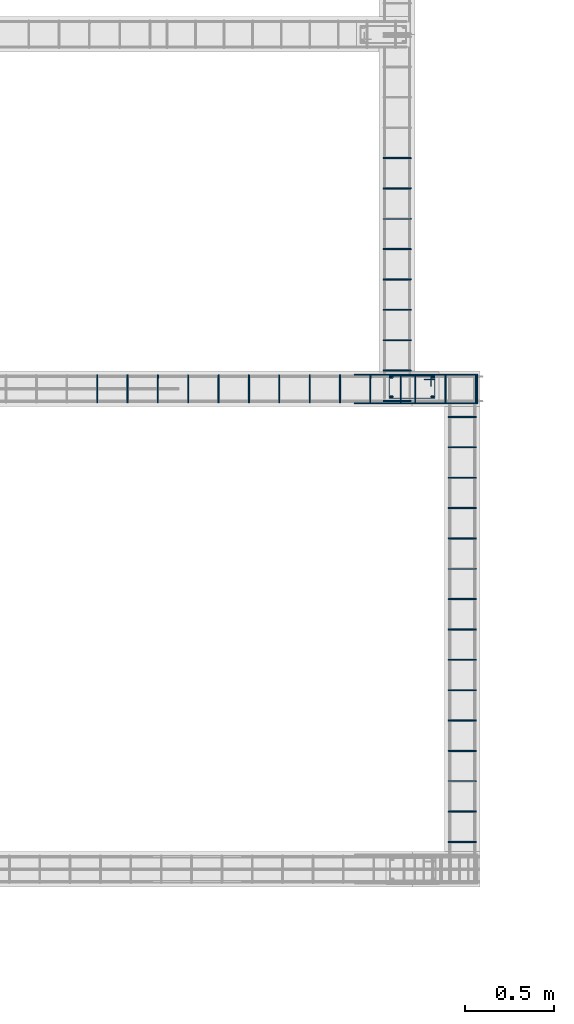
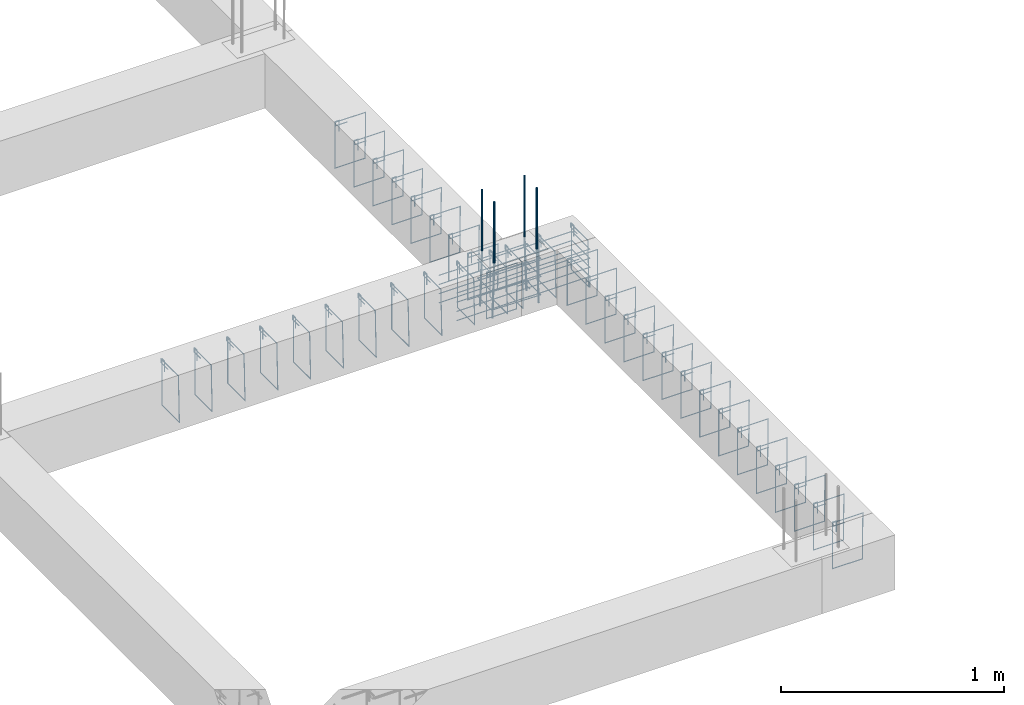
# One storey, part 120 of 150: 49 reinforcing bars.
"""IFC4 building model written with IfcOpenShell, lengths in centimetres."""

from ifc_helpers import new_model, entity, si_unit, derived_unit, frame, origin_with_axes, place, context, project, spatial, source, transform, mapped, element, save


model = new_model("IFC4")

# Units and contexts
model_context = context("Model", 3, precision=1e-05, world=origin_with_axes(), identifier="Body")
ifc_project = project(units=[si_unit("LENGTHUNIT", "METRE", prefix="CENTI"), si_unit("VOLUMEUNIT", "CUBIC_METRE"), si_unit("AREAUNIT", "SQUARE_METRE"), si_unit("POWERUNIT", "WATT"), si_unit("LUMINOUSFLUXUNIT", "LUMEN"), si_unit("ELECTRICCURRENTUNIT", "AMPERE"), si_unit("PRESSUREUNIT", "PASCAL", prefix="KILO"), si_unit("MASSUNIT", "GRAM", prefix="KILO"), si_unit("PLANEANGLEUNIT", "RADIAN"), derived_unit("VOLUMETRICFLOWRATEUNIT", [(si_unit("LENGTHUNIT", "METRE"), 3), (si_unit("TIMEUNIT", "SECOND"), -1)])], contexts=[model_context])

# Site, building, storey
site_placement = place(None, frame((-4000.0, 0.0, 0.0), z_axis=(0.0, 0.0, 1.0), x_axis=(1.0, 0.0, 0.0)))
site = spatial("IfcSite", under=ifc_project, at=site_placement, Name="PADRÃO")
building_placement = place(site_placement, frame((0.0, 0.0, -14.0)))
building = spatial("IfcBuilding", under=site, at=building_placement, Name="CRECHE PRÉ-ESCOLA TIPO 2")
placement = place(building_placement, origin_with_axes())
storey_placement = place(placement, frame((0.0, 0.0, 30.0), z_axis=(0.0, 0.0, 1.0), x_axis=(1.0, 0.0, 0.0)))
storey = spatial("IfcBuildingStorey", under=building, at=storey_placement, Name="VIGA BALDRAME", CompositionType="ELEMENT", Elevation=16.0)

# Reinforcing bars
shared_shape_1 = source(origin_with_axes(), model_context, "Body", "AdvancedSweptSolid", [
    entity("IfcSweptDiskSolid", entity("IfcCompositeCurve", [entity("IfcCompositeCurveSegment", "CONTINUOUS", True, entity("IfcPolyline", [entity("IfcCartesianPoint", [4.25, 21.75, 0.0]), entity("IfcCartesianPoint", [4.25, 27.75, 0.0])])), entity("IfcCompositeCurveSegment", "CONTINUOUS", True, entity("IfcPolyline", [entity("IfcCartesianPoint", [4.25, 27.75, 0.0]), entity("IfcCartesianPoint", [2.25, 27.75, 0.0])])), entity("IfcCompositeCurveSegment", "CONTINUOUS", True, entity("IfcPolyline", [entity("IfcCartesianPoint", [2.25, 27.75, 0.0]), entity("IfcCartesianPoint", [2.25, 2.25, 0.0])])), entity("IfcCompositeCurveSegment", "CONTINUOUS", True, entity("IfcPolyline", [entity("IfcCartesianPoint", [2.25, 2.25, 0.0]), entity("IfcCartesianPoint", [14.75, 2.25, 0.0])])), entity("IfcCompositeCurveSegment", "CONTINUOUS", True, entity("IfcPolyline", [entity("IfcCartesianPoint", [14.75, 2.25, 0.0]), entity("IfcCartesianPoint", [14.75, 27.75, -0.5])])), entity("IfcCompositeCurveSegment", "CONTINUOUS", True, entity("IfcPolyline", [entity("IfcCartesianPoint", [14.75, 27.75, -0.5]), entity("IfcCartesianPoint", [2.25, 27.75, -0.5])])), entity("IfcCompositeCurveSegment", "CONTINUOUS", True, entity("IfcPolyline", [entity("IfcCartesianPoint", [2.25, 27.75, -0.5]), entity("IfcCartesianPoint", [2.25, 25.75, -0.5])])), entity("IfcCompositeCurveSegment", "CONTINUOUS", True, entity("IfcPolyline", [entity("IfcCartesianPoint", [2.25, 25.75, -0.5]), entity("IfcCartesianPoint", [8.25, 25.75, -0.5])]))], False), 0.25),
])
for number, where, z_axis, x_axis, name in (
    (1, (1377.84, 3478.52, -5.0), (0.0, 0.0, 1.0), (0.0, -1.0, 0.0), "P41 - Estribo"),
    (2, (1377.84, 3478.52, -15.0), (0.0, 0.0, 1.0), (0.0, -1.0, 0.0), "P41 - Estribo"),
    (3, (1377.84, 3478.52, -25.0), (0.0, 0.0, 1.0), (0.0, -1.0, 0.0), "P41 - Estribo"),
):
    element("IfcReinforcingBar", number, at=place(storey_placement, frame(where, z_axis=z_axis, x_axis=x_axis)), inside=storey, Name=name, BarLength=0.0, CrossSectionArea=1.9634954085e-05, NominalDiameter=0.5, PredefinedType="MAIN", context=model_context, shape_type="MappedRepresentation", body=[
        mapped(shared_shape_1, transform((0.0, 0.0, 0.0), scale=1.0)),
    ])
shared_shape_2 = source(origin_with_axes(), model_context, "Body", "AdvancedSweptSolid", [
    entity("IfcSweptDiskSolid", entity("IfcCompositeCurve", [entity("IfcCompositeCurveSegment", "CONTINUOUS", True, entity("IfcPolyline", [entity("IfcCartesianPoint", [2.0, -6.0, 0.0]), entity("IfcCartesianPoint", [2.0, 0.0, 0.0])])), entity("IfcCompositeCurveSegment", "CONTINUOUS", True, entity("IfcPolyline", [entity("IfcCartesianPoint", [2.0, 0.0, 0.0]), entity("IfcCartesianPoint", [0.0, 0.0, 0.0])])), entity("IfcCompositeCurveSegment", "CONTINUOUS", True, entity("IfcPolyline", [entity("IfcCartesianPoint", [0.0, 0.0, 0.0]), entity("IfcCartesianPoint", [0.0, -25.5, 0.0])])), entity("IfcCompositeCurveSegment", "CONTINUOUS", True, entity("IfcPolyline", [entity("IfcCartesianPoint", [0.0, -25.5, 0.0]), entity("IfcCartesianPoint", [15.5, -25.5, 0.0])])), entity("IfcCompositeCurveSegment", "CONTINUOUS", True, entity("IfcPolyline", [entity("IfcCartesianPoint", [15.5, -25.5, 0.0]), entity("IfcCartesianPoint", [15.5, 0.0, 0.5])])), entity("IfcCompositeCurveSegment", "CONTINUOUS", True, entity("IfcPolyline", [entity("IfcCartesianPoint", [15.5, 0.0, 0.5]), entity("IfcCartesianPoint", [0.0, 0.0, 0.5])])), entity("IfcCompositeCurveSegment", "CONTINUOUS", True, entity("IfcPolyline", [entity("IfcCartesianPoint", [0.0, 0.0, 0.5]), entity("IfcCartesianPoint", [0.0, -2.0, 0.5])])), entity("IfcCompositeCurveSegment", "CONTINUOUS", True, entity("IfcPolyline", [entity("IfcCartesianPoint", [0.0, -2.0, 0.5]), entity("IfcCartesianPoint", [6.0, -2.0, 0.5])]))], False), 0.25),
])
for number, where, z_axis, x_axis, name in (
    (4, (1376.74, 3462.51, -2.25), (0.0, -1.0, 0.0), (1.0, 0.0, 0.0), "V188 - Estribo"),
    (5, (1376.74, 3479.51, -2.25), (0.0, -1.0, 0.0), (1.0, 0.0, 0.0), "V188 - Estribo"),
    (6, (1376.74, 3496.51, -2.25), (0.0, -1.0, 0.0), (1.0, 0.0, 0.0), "V188 - Estribo"),
    (7, (1376.74, 3530.51, -2.25), (0.0, -1.0, 0.0), (1.0, 0.0, 0.0), "V188 - Estribo"),
    (8, (1376.74, 3547.51, -2.25), (0.0, -1.0, 0.0), (1.0, 0.0, 0.0), "V188 - Estribo"),
    (9, (1376.74, 3513.51, -2.25), (0.0, -1.0, 0.0), (1.0, 0.0, 0.0), "V188 - Estribo"),
    (10, (1376.74, 3564.51, -2.25), (0.0, -1.0, 0.0), (1.0, 0.0, 0.0), "V188 - Estribo"),
    (11, (1376.74, 3581.51, -2.25), (0.0, -1.0, 0.0), (1.0, 0.0, 0.0), "V188 - Estribo"),
    (12, (1376.74, 3598.51, -2.25), (0.0, -1.0, 0.0), (1.0, 0.0, 0.0), "V188 - Estribo"),
):
    element("IfcReinforcingBar", number, at=place(storey_placement, frame(where, z_axis=z_axis, x_axis=x_axis)), inside=storey, Name=name, BarLength=0.0, CrossSectionArea=1.9634954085e-05, NominalDiameter=0.5, PredefinedType="MAIN", context=model_context, shape_type="MappedRepresentation", body=[
        mapped(shared_shape_2, transform((0.0, 0.0, 0.0), scale=1.0)),
    ])
shared_shape_3 = source(origin_with_axes(), model_context, "Body", "AdvancedSweptSolid", [
    entity("IfcSweptDiskSolid", entity("IfcCompositeCurve", [entity("IfcCompositeCurveSegment", "CONTINUOUS", True, entity("IfcPolyline", [entity("IfcCartesianPoint", [2.0, -6.0, 0.0]), entity("IfcCartesianPoint", [2.0, 0.0, 0.0])])), entity("IfcCompositeCurveSegment", "CONTINUOUS", True, entity("IfcPolyline", [entity("IfcCartesianPoint", [2.0, 0.0, 0.0]), entity("IfcCartesianPoint", [0.0, 0.0, 0.0])])), entity("IfcCompositeCurveSegment", "CONTINUOUS", True, entity("IfcPolyline", [entity("IfcCartesianPoint", [0.0, 0.0, 0.0]), entity("IfcCartesianPoint", [0.0, -25.5, 0.0])])), entity("IfcCompositeCurveSegment", "CONTINUOUS", True, entity("IfcPolyline", [entity("IfcCartesianPoint", [0.0, -25.5, 0.0]), entity("IfcCartesianPoint", [15.5, -25.5, 0.0])])), entity("IfcCompositeCurveSegment", "CONTINUOUS", True, entity("IfcPolyline", [entity("IfcCartesianPoint", [15.5, -25.5, 0.0]), entity("IfcCartesianPoint", [15.5, 0.0, 0.5])])), entity("IfcCompositeCurveSegment", "CONTINUOUS", True, entity("IfcPolyline", [entity("IfcCartesianPoint", [15.5, 0.0, 0.5]), entity("IfcCartesianPoint", [0.0, 0.0, 0.5])])), entity("IfcCompositeCurveSegment", "CONTINUOUS", True, entity("IfcPolyline", [entity("IfcCartesianPoint", [0.0, 0.0, 0.5]), entity("IfcCartesianPoint", [0.0, -2.0, 0.5])])), entity("IfcCompositeCurveSegment", "CONTINUOUS", True, entity("IfcPolyline", [entity("IfcCartesianPoint", [0.0, -2.0, 0.5]), entity("IfcCartesianPoint", [6.0, -2.0, 0.5])]))], False), 0.25),
])
for number, where, z_axis, x_axis, name in (
    (13, (1413.28, 3232.51, -2.25), (0.0, -1.0, 0.0), (1.0, 0.0, 0.0), "V187 - Estribo"),
    (14, (1413.28, 3215.51, -2.25), (0.0, -1.0, 0.0), (1.0, 0.0, 0.0), "V187 - Estribo"),
    (15, (1413.28, 3402.51, -2.25), (0.0, -1.0, 0.0), (1.0, 0.0, 0.0), "V187 - Estribo"),
    (16, (1413.28, 3419.51, -2.25), (0.0, -1.0, 0.0), (1.0, 0.0, 0.0), "V187 - Estribo"),
    (17, (1413.28, 3436.51, -2.25), (0.0, -1.0, 0.0), (1.0, 0.0, 0.0), "V187 - Estribo"),
    (18, (1413.28, 3453.51, -2.25), (0.0, -1.0, 0.0), (1.0, 0.0, 0.0), "V187 - Estribo"),
    (19, (1413.28, 3300.51, -2.25), (0.0, -1.0, 0.0), (1.0, 0.0, 0.0), "V187 - Estribo"),
    (20, (1413.28, 3283.51, -2.25), (0.0, -1.0, 0.0), (1.0, 0.0, 0.0), "V187 - Estribo"),
    (21, (1413.28, 3266.51, -2.25), (0.0, -1.0, 0.0), (1.0, 0.0, 0.0), "V187 - Estribo"),
    (22, (1413.28, 3249.51, -2.25), (0.0, -1.0, 0.0), (1.0, 0.0, 0.0), "V187 - Estribo"),
    (23, (1413.28, 3317.51, -2.25), (0.0, -1.0, 0.0), (1.0, 0.0, 0.0), "V187 - Estribo"),
    (24, (1413.28, 3334.51, -2.25), (0.0, -1.0, 0.0), (1.0, 0.0, 0.0), "V187 - Estribo"),
    (25, (1413.28, 3351.51, -2.25), (0.0, -1.0, 0.0), (1.0, 0.0, 0.0), "V187 - Estribo"),
    (26, (1413.28, 3368.51, -2.25), (0.0, -1.0, 0.0), (1.0, 0.0, 0.0), "V187 - Estribo"),
    (27, (1413.28, 3385.51, -2.25), (0.0, -1.0, 0.0), (1.0, 0.0, 0.0), "V187 - Estribo"),
):
    element("IfcReinforcingBar", number, at=place(storey_placement, frame(where, z_axis=z_axis, x_axis=x_axis)), inside=storey, Name=name, BarLength=0.0, CrossSectionArea=1.9634954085e-05, NominalDiameter=0.5, PredefinedType="MAIN", context=model_context, shape_type="MappedRepresentation", body=[
        mapped(shared_shape_3, transform((0.0, 0.0, 0.0), scale=1.0)),
    ])
shared_shape_4 = source(origin_with_axes(), model_context, "Body", "AdvancedSweptSolid", [
    entity("IfcSweptDiskSolid", entity("IfcCompositeCurve", [entity("IfcCompositeCurveSegment", "CONTINUOUS", True, entity("IfcPolyline", [entity("IfcCartesianPoint", [2.0, -6.0, 0.0]), entity("IfcCartesianPoint", [2.0, 0.0, 0.0])])), entity("IfcCompositeCurveSegment", "CONTINUOUS", True, entity("IfcPolyline", [entity("IfcCartesianPoint", [2.0, 0.0, 0.0]), entity("IfcCartesianPoint", [0.0, 0.0, 0.0])])), entity("IfcCompositeCurveSegment", "CONTINUOUS", True, entity("IfcPolyline", [entity("IfcCartesianPoint", [0.0, 0.0, 0.0]), entity("IfcCartesianPoint", [0.0, -25.5, 0.0])])), entity("IfcCompositeCurveSegment", "CONTINUOUS", True, entity("IfcPolyline", [entity("IfcCartesianPoint", [0.0, -25.5, 0.0]), entity("IfcCartesianPoint", [15.5, -25.5, 0.0])])), entity("IfcCompositeCurveSegment", "CONTINUOUS", True, entity("IfcPolyline", [entity("IfcCartesianPoint", [15.5, -25.5, 0.0]), entity("IfcCartesianPoint", [15.5, 0.0, 0.5])])), entity("IfcCompositeCurveSegment", "CONTINUOUS", True, entity("IfcPolyline", [entity("IfcCartesianPoint", [15.5, 0.0, 0.5]), entity("IfcCartesianPoint", [0.0, 0.0, 0.5])])), entity("IfcCompositeCurveSegment", "CONTINUOUS", True, entity("IfcPolyline", [entity("IfcCartesianPoint", [0.0, 0.0, 0.5]), entity("IfcCartesianPoint", [0.0, -2.0, 0.5])])), entity("IfcCompositeCurveSegment", "CONTINUOUS", True, entity("IfcPolyline", [entity("IfcCartesianPoint", [0.0, -2.0, 0.5]), entity("IfcCartesianPoint", [6.0, -2.0, 0.5])]))], False), 0.25),
])
for number, where, z_axis, x_axis, name in (
    (28, (1386.78, 3476.75, -2.25), (-1.0, 0.0, 0.0), (0.0, -1.0, 0.0), "V110 - Estribo"),
    (29, (1369.78, 3476.75, -2.25), (-1.0, 0.0, 0.0), (0.0, -1.0, 0.0), "V110 - Estribo"),
    (30, (1352.78, 3476.75, -2.25), (-1.0, 0.0, 0.0), (0.0, -1.0, 0.0), "V110 - Estribo"),
    (31, (1335.78, 3476.75, -2.25), (-1.0, 0.0, 0.0), (0.0, -1.0, 0.0), "V110 - Estribo"),
    (32, (1318.78, 3476.75, -2.25), (-1.0, 0.0, 0.0), (0.0, -1.0, 0.0), "V110 - Estribo"),
    (33, (1301.78, 3476.75, -2.25), (-1.0, 0.0, 0.0), (0.0, -1.0, 0.0), "V110 - Estribo"),
    (34, (1284.78, 3476.75, -2.25), (-1.0, 0.0, 0.0), (0.0, -1.0, 0.0), "V110 - Estribo"),
    (35, (1267.78, 3476.75, -2.25), (-1.0, 0.0, 0.0), (0.0, -1.0, 0.0), "V110 - Estribo"),
    (36, (1250.78, 3476.75, -2.25), (-1.0, 0.0, 0.0), (0.0, -1.0, 0.0), "V110 - Estribo"),
    (37, (1233.78, 3476.75, -2.25), (-1.0, 0.0, 0.0), (0.0, -1.0, 0.0), "V110 - Estribo"),
    (38, (1216.78, 3476.75, -2.25), (-1.0, 0.0, 0.0), (0.0, -1.0, 0.0), "V110 - Estribo"),
):
    element("IfcReinforcingBar", number, at=place(storey_placement, frame(where, z_axis=z_axis, x_axis=x_axis)), inside=storey, Name=name, BarLength=0.0, CrossSectionArea=1.9634954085e-05, NominalDiameter=0.5, PredefinedType="MAIN", context=model_context, shape_type="MappedRepresentation", body=[
        mapped(shared_shape_4, transform((0.0, 0.0, 0.0), scale=1.0)),
    ])
shared_shape_5 = source(origin_with_axes(), model_context, "Body", "AdvancedSweptSolid", [
    entity("IfcSweptDiskSolid", entity("IfcCompositeCurve", [entity("IfcCompositeCurveSegment", "CONTINUOUS", True, entity("IfcPolyline", [entity("IfcCartesianPoint", [2.0, -6.0, 0.0]), entity("IfcCartesianPoint", [2.0, 0.0, 0.0])])), entity("IfcCompositeCurveSegment", "CONTINUOUS", True, entity("IfcPolyline", [entity("IfcCartesianPoint", [2.0, 0.0, 0.0]), entity("IfcCartesianPoint", [0.0, 0.0, 0.0])])), entity("IfcCompositeCurveSegment", "CONTINUOUS", True, entity("IfcPolyline", [entity("IfcCartesianPoint", [0.0, 0.0, 0.0]), entity("IfcCartesianPoint", [0.0, -25.5, 0.0])])), entity("IfcCompositeCurveSegment", "CONTINUOUS", True, entity("IfcPolyline", [entity("IfcCartesianPoint", [0.0, -25.5, 0.0]), entity("IfcCartesianPoint", [15.5, -25.5, 0.0])])), entity("IfcCompositeCurveSegment", "CONTINUOUS", True, entity("IfcPolyline", [entity("IfcCartesianPoint", [15.5, -25.5, 0.0]), entity("IfcCartesianPoint", [15.5, 0.0, 0.5])])), entity("IfcCompositeCurveSegment", "CONTINUOUS", True, entity("IfcPolyline", [entity("IfcCartesianPoint", [15.5, 0.0, 0.5]), entity("IfcCartesianPoint", [0.0, 0.0, 0.5])])), entity("IfcCompositeCurveSegment", "CONTINUOUS", True, entity("IfcPolyline", [entity("IfcCartesianPoint", [0.0, 0.0, 0.5]), entity("IfcCartesianPoint", [0.0, -2.0, 0.5])])), entity("IfcCompositeCurveSegment", "CONTINUOUS", True, entity("IfcPolyline", [entity("IfcCartesianPoint", [0.0, -2.0, 0.5]), entity("IfcCartesianPoint", [6.0, -2.0, 0.5])]))], False), 0.25),
])
for number, where, z_axis, x_axis, name in (
    (39, (1428.935, 3476.75, -2.25), (-1.0, 0.0, 0.0), (0.0, -1.0, 0.0), "V110 - Estribo"),
    (40, (1411.935, 3476.75, -2.25), (-1.0, 0.0, 0.0), (0.0, -1.0, 0.0), "V110 - Estribo"),
    (41, (1394.935, 3476.75, -2.25), (-1.0, 0.0, 0.0), (0.0, -1.0, 0.0), "V110 - Estribo"),
):
    element("IfcReinforcingBar", number, at=place(storey_placement, frame(where, z_axis=z_axis, x_axis=x_axis)), inside=storey, Name=name, BarLength=0.0, CrossSectionArea=1.9634954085e-05, NominalDiameter=0.5, PredefinedType="MAIN", context=model_context, shape_type="MappedRepresentation", body=[
        mapped(shared_shape_5, transform((0.0, 0.0, 0.0), scale=1.0)),
    ])
shared_shape_6 = source(origin_with_axes(), model_context, "Body", "AdvancedSweptSolid", [
    entity("IfcSweptDiskSolid", entity("IfcCompositeCurve", [entity("IfcCompositeCurveSegment", "CONTINUOUS", True, entity("IfcPolyline", [entity("IfcCartesianPoint", [0.0, 0.0, 0.0]), entity("IfcCartesianPoint", [68.8913828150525, 0.0, 0.0])])), entity("IfcCompositeCurveSegment", "CONTINUOUS", True, entity("IfcPolyline", [entity("IfcCartesianPoint", [68.8913828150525, 0.0, 0.0]), entity("IfcCartesianPoint", [68.8913828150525, 16.0, 0.0])])), entity("IfcCompositeCurveSegment", "CONTINUOUS", True, entity("IfcPolyline", [entity("IfcCartesianPoint", [68.8913828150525, 16.0, 0.0]), entity("IfcCartesianPoint", [0.0, 16.0, 0.0])]))], False), 0.25),
])
for number, where, z_axis, x_axis, name in (
    (42, (1360.38861718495, 3461.0, -22.1), (0.0, 0.0, 1.0), (1.0, 0.0, 0.0), "V110 - Grampo"),
    (43, (1360.38861718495, 3461.0, -17.1), (0.0, 0.0, 1.0), (1.0, 0.0, 0.0), "V110 - Grampo"),
    (44, (1360.38861718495, 3461.0, -12.1), (0.0, 0.0, 1.0), (1.0, 0.0, 0.0), "V110 - Grampo"),
    (45, (1360.38861718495, 3461.0, -7.1), (0.0, 0.0, 1.0), (1.0, 0.0, 0.0), "V110 - Grampo"),
):
    element("IfcReinforcingBar", number, at=place(storey_placement, frame(where, z_axis=z_axis, x_axis=x_axis)), inside=storey, Name=name, BarLength=0.0, CrossSectionArea=1.9634954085e-05, NominalDiameter=0.5, PredefinedType="MAIN", context=model_context, shape_type="MappedRepresentation", body=[
        mapped(shared_shape_6, transform((0.0, 0.0, 0.0), scale=1.0)),
    ])
for number, where, z_axis, x_axis, name in (
    (46, (1404.33986122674, 3464.52, 33.3573001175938), (0.0, 0.0, 1.0), (1.0, 0.0, 0.0), "P41 - Longitudinal"),
    (47, (1404.33986122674, 3475.52, 33.3573001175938), (0.0, 0.0, 1.0), (1.0, 0.0, 0.0), "P41 - Longitudinal"),
):
    element("IfcReinforcingBar", number, at=place(storey_placement, frame(where, z_axis=z_axis, x_axis=x_axis)), inside=storey, Name=name, BarLength=0.0, CrossSectionArea=7.853981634e-05, NominalDiameter=1.0, PredefinedType="MAIN", context=model_context, shape_type="AdvancedSweptSolid", body=[
        entity("IfcSweptDiskSolid", entity("IfcCompositeCurve", [entity("IfcCompositeCurveSegment", "CONTINUOUS", True, entity("IfcPolyline", [entity("IfcCartesianPoint", [0.50013877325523, 0.0, -63.3573001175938]), entity("IfcCartesianPoint", [-0.49986122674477, 0.0, -33.3573001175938])])), entity("IfcCompositeCurveSegment", "CONTINUOUS", True, entity("IfcPolyline", [entity("IfcCartesianPoint", [-0.49986122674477, 0.0, -33.3573001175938]), entity("IfcCartesianPoint", [-0.49986122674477, 0.0, 0.0])]))], False), 0.5),
    ])
for number, where, z_axis, x_axis, name in (
    (48, (1381.34013877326, 3475.52, 33.3573001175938), (0.0, 0.0, 1.0), (1.0, 0.0, 0.0), "P41 - Longitudinal"),
    (49, (1381.34013877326, 3464.52, 33.3573001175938), (0.0, 0.0, 1.0), (1.0, 0.0, 0.0), "P41 - Longitudinal"),
):
    element("IfcReinforcingBar", number, at=place(storey_placement, frame(where, z_axis=z_axis, x_axis=x_axis)), inside=storey, Name=name, BarLength=0.0, CrossSectionArea=7.853981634e-05, NominalDiameter=1.0, PredefinedType="MAIN", context=model_context, shape_type="AdvancedSweptSolid", body=[
        entity("IfcSweptDiskSolid", entity("IfcCompositeCurve", [entity("IfcCompositeCurveSegment", "CONTINUOUS", True, entity("IfcPolyline", [entity("IfcCartesianPoint", [-0.50013877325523, 0.0, -63.3573001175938]), entity("IfcCartesianPoint", [0.49986122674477, 0.0, -33.3573001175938])])), entity("IfcCompositeCurveSegment", "CONTINUOUS", True, entity("IfcPolyline", [entity("IfcCartesianPoint", [0.49986122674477, 0.0, -33.3573001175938]), entity("IfcCartesianPoint", [0.49986122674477, 0.0, 0.0])]))], False), 0.5),
    ])

save(model, "model.ifc")
